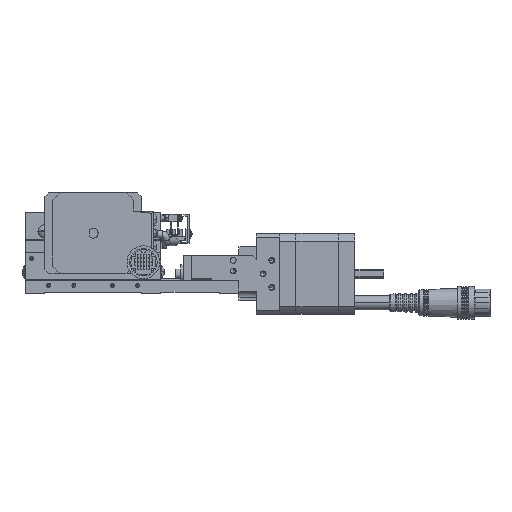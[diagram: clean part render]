
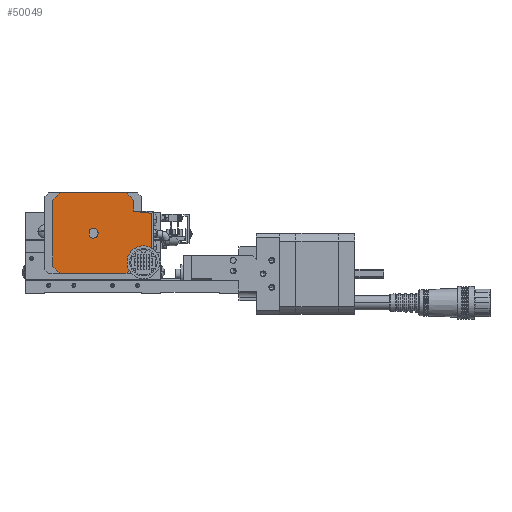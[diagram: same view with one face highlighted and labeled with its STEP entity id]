
A CAD part, front view. The second image highlights one B-rep face of the part: STEP entity #50049.
In plain terms, the highlighted planar face has unit normal (0, -1, 0) as drawn and (-1, 0, 0) by its records, which use the part's own axes.
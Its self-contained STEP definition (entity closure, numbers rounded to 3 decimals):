
#8 = ORIENTED_EDGE ( 'NONE', *, *, #3712, .F. ) ;
#1185 = LINE ( 'NONE', #28464, #116430 ) ;
#3200 = VERTEX_POINT ( 'NONE', #28772 ) ;
#3712 = EDGE_CURVE ( 'NONE', #16280, #63059, #44446, .T. ) ;
#5159 = CARTESIAN_POINT ( 'NONE',  ( -249.668, 161.584, -97.552 ) ) ;
#5873 = AXIS2_PLACEMENT_3D ( 'NONE', #65190, #27482, #121245 ) ;
#6093 = ORIENTED_EDGE ( 'NONE', *, *, #40337, .T. ) ;
#7298 = CARTESIAN_POINT ( 'NONE',  ( -249.668, 119.584, -103.023 ) ) ;
#7391 = CARTESIAN_POINT ( 'NONE',  ( -249.668, 110.584, -104.57 ) ) ;
#8073 = ORIENTED_EDGE ( 'NONE', *, *, #88447, .F. ) ;
#9577 = CARTESIAN_POINT ( 'NONE',  ( -249.668, 140.584, -114.523 ) ) ;
#9983 = AXIS2_PLACEMENT_3D ( 'NONE', #61301, #52452, #119418 ) ;
#11453 = LINE ( 'NONE', #95126, #93770 ) ;
#11583 = EDGE_CURVE ( 'NONE', #34268, #3200, #37236, .T. ) ;
#11746 = CARTESIAN_POINT ( 'NONE',  ( -249.668, 119.584, -103.023 ) ) ;
#12303 = CARTESIAN_POINT ( 'NONE',  ( -249.668, 161.584, -131.494 ) ) ;
#14438 = FACE_BOUND ( 'NONE', #114874, .T. ) ;
#14557 = DIRECTION ( 'NONE',  ( 0., 0., -1. ) ) ;
#15637 = EDGE_CURVE ( 'NONE', #38441, #23825, #42421, .T. ) ;
#15791 = EDGE_CURVE ( 'NONE', #23825, #88701, #73810, .T. ) ;
#16280 = VERTEX_POINT ( 'NONE', #52765 ) ;
#16564 = CARTESIAN_POINT ( 'NONE',  ( -249.668, 119.584, -126.023 ) ) ;
#16868 = EDGE_CURVE ( 'NONE', #59732, #51799, #19698, .T. ) ;
#18190 = CARTESIAN_POINT ( 'NONE',  ( -249.668, 140.584, -114.523 ) ) ;
#18547 = DIRECTION ( 'NONE',  ( 1., 0., 0. ) ) ;
#18619 = DIRECTION ( 'NONE',  ( 0., 0.993, -0.122 ) ) ;
#19698 = LINE ( 'NONE', #119589, #99023 ) ;
#22476 = ORIENTED_EDGE ( 'NONE', *, *, #76846, .F. ) ;
#23710 = AXIS2_PLACEMENT_3D ( 'NONE', #122237, #35635, #55759 ) ;
#23825 = VERTEX_POINT ( 'NONE', #5159 ) ;
#24105 = LINE ( 'NONE', #11746, #66026 ) ;
#25333 = ORIENTED_EDGE ( 'NONE', *, *, #99246, .F. ) ;
#26943 = DIRECTION ( 'NONE',  ( 0., 0.778, 0.629 ) ) ;
#27482 = DIRECTION ( 'NONE',  ( 1., 0., 0. ) ) ;
#28464 = CARTESIAN_POINT ( 'NONE',  ( -249.668, 119.584, -97.552 ) ) ;
#28772 = CARTESIAN_POINT ( 'NONE',  ( -249.668, 111.024, -124.972 ) ) ;
#30147 = EDGE_CURVE ( 'NONE', #95709, #49633, #35535, .T. ) ;
#31783 = VECTOR ( 'NONE', #92711, 1000. ) ;
#32145 = CIRCLE ( 'NONE', #61819, 27. ) ;
#34268 = VERTEX_POINT ( 'NONE', #65952 ) ;
#35535 = CIRCLE ( 'NONE', #9983, 0.5 ) ;
#35635 = DIRECTION ( 'NONE',  ( 1., 0., 0. ) ) ;
#36182 = CARTESIAN_POINT ( 'NONE',  ( -249.668, 111.024, -124.972 ) ) ;
#36460 = PLANE ( 'NONE',  #23710 ) ;
#36914 = CARTESIAN_POINT ( 'NONE',  ( -249.668, 140.584, -114.523 ) ) ;
#37236 = CIRCLE ( 'NONE', #5873, 0.5 ) ;
#38080 = DIRECTION ( 'NONE',  ( 0., 0.8, 0.6 ) ) ;
#38441 = VERTEX_POINT ( 'NONE', #102213 ) ;
#39889 = ORIENTED_EDGE ( 'NONE', *, *, #15637, .F. ) ;
#40337 = EDGE_CURVE ( 'NONE', #59732, #51799, #47695, .T. ) ;
#42421 = LINE ( 'NONE', #12303, #45425 ) ;
#42490 = AXIS2_PLACEMENT_3D ( 'NONE', #18190, #45787, #94715 ) ;
#44233 = VERTEX_POINT ( 'NONE', #88219 ) ;
#44446 = CIRCLE ( 'NONE', #42490, 27. ) ;
#45425 = VECTOR ( 'NONE', #59276, 1000. ) ;
#45787 = DIRECTION ( 'NONE',  ( 1., 0., 0. ) ) ;
#46921 = DIRECTION ( 'NONE',  ( 1., 0., 0. ) ) ;
#47695 = CIRCLE ( 'NONE', #53821, 2.5 ) ;
#47709 = CARTESIAN_POINT ( 'NONE',  ( -249.668, 140.584, -114.523 ) ) ;
#47857 = ORIENTED_EDGE ( 'NONE', *, *, #11583, .F. ) ;
#49633 = VERTEX_POINT ( 'NONE', #103091 ) ;
#50049 = ADVANCED_FACE ( 'NONE', ( #119269, #14438 ), #36460, .F. ) ;
#50156 = CARTESIAN_POINT ( 'NONE',  ( -249.668, 111.024, -104.074 ) ) ;
#51799 = VERTEX_POINT ( 'NONE', #95672 ) ;
#52452 = DIRECTION ( 'NONE',  ( 1., 0., 0. ) ) ;
#52765 = CARTESIAN_POINT ( 'NONE',  ( -249.668, 119.584, -131.494 ) ) ;
#53821 = AXIS2_PLACEMENT_3D ( 'NONE', #47709, #96239, #38080 ) ;
#54004 = LINE ( 'NONE', #36182, #67486 ) ;
#55754 = AXIS2_PLACEMENT_3D ( 'NONE', #36914, #46921, #113487 ) ;
#55759 = DIRECTION ( 'NONE',  ( 0., 0., -1. ) ) ;
#56847 = VERTEX_POINT ( 'NONE', #7298 ) ;
#57489 = CARTESIAN_POINT ( 'NONE',  ( -249.668, 119.584, -126.023 ) ) ;
#59276 = DIRECTION ( 'NONE',  ( 0., 0., 1. ) ) ;
#59732 = VERTEX_POINT ( 'NONE', #75301 ) ;
#61301 = CARTESIAN_POINT ( 'NONE',  ( -249.668, 111.084, -104.57 ) ) ;
#61819 = AXIS2_PLACEMENT_3D ( 'NONE', #9577, #105398, #96587 ) ;
#63059 = VERTEX_POINT ( 'NONE', #72530 ) ;
#64995 = ORIENTED_EDGE ( 'NONE', *, *, #68767, .F. ) ;
#65123 = VERTEX_POINT ( 'NONE', #81872 ) ;
#65190 = CARTESIAN_POINT ( 'NONE',  ( -249.668, 111.084, -124.476 ) ) ;
#65952 = CARTESIAN_POINT ( 'NONE',  ( -249.668, 110.584, -124.476 ) ) ;
#66026 = VECTOR ( 'NONE', #79474, 1000. ) ;
#66296 = LINE ( 'NONE', #7391, #31783 ) ;
#67486 = VECTOR ( 'NONE', #18619, 1000. ) ;
#68767 = EDGE_CURVE ( 'NONE', #92973, #56847, #1185, .T. ) ;
#70748 = VECTOR ( 'NONE', #81253, 1000. ) ;
#71197 = ORIENTED_EDGE ( 'NONE', *, *, #97398, .F. ) ;
#71252 = CARTESIAN_POINT ( 'NONE',  ( -249.668, 123.614, -135.523 ) ) ;
#72530 = CARTESIAN_POINT ( 'NONE',  ( -249.668, 123.614, -135.523 ) ) ;
#73810 = CIRCLE ( 'NONE', #80043, 27. ) ;
#75301 = CARTESIAN_POINT ( 'NONE',  ( -249.668, 142.584, -113.023 ) ) ;
#76846 = EDGE_CURVE ( 'NONE', #49633, #34268, #66296, .T. ) ;
#79474 = DIRECTION ( 'NONE',  ( 0., -0.993, -0.122 ) ) ;
#80043 = AXIS2_PLACEMENT_3D ( 'NONE', #123562, #18547, #26943 ) ;
#81044 = LINE ( 'NONE', #71252, #70748 ) ;
#81253 = DIRECTION ( 'NONE',  ( 0., 1., 0. ) ) ;
#81386 = EDGE_CURVE ( 'NONE', #44233, #38441, #102619, .T. ) ;
#81669 = ORIENTED_EDGE ( 'NONE', *, *, #30147, .F. ) ;
#81872 = CARTESIAN_POINT ( 'NONE',  ( -249.668, 123.614, -93.523 ) ) ;
#82031 = EDGE_LOOP ( 'NONE', ( #109289, #39889, #97612, #8073, #8, #25333, #84266, #47857, #22476, #81669, #71197, #64995, #86422, #121284 ) ) ;
#84266 = ORIENTED_EDGE ( 'NONE', *, *, #97741, .F. ) ;
#84308 = DIRECTION ( 'NONE',  ( 0., 0., -1. ) ) ;
#86422 = ORIENTED_EDGE ( 'NONE', *, *, #104105, .F. ) ;
#87713 = DIRECTION ( 'NONE',  ( 0., -1., 0. ) ) ;
#88219 = CARTESIAN_POINT ( 'NONE',  ( -249.668, 157.555, -135.523 ) ) ;
#88447 = EDGE_CURVE ( 'NONE', #63059, #44233, #81044, .T. ) ;
#88701 = VERTEX_POINT ( 'NONE', #94137 ) ;
#89563 = ORIENTED_EDGE ( 'NONE', *, *, #16868, .F. ) ;
#92711 = DIRECTION ( 'NONE',  ( 0., 0., -1. ) ) ;
#92973 = VERTEX_POINT ( 'NONE', #112750 ) ;
#93770 = VECTOR ( 'NONE', #87713, 1000. ) ;
#94137 = CARTESIAN_POINT ( 'NONE',  ( -249.668, 157.555, -93.523 ) ) ;
#94715 = DIRECTION ( 'NONE',  ( 0., -0.778, -0.629 ) ) ;
#95126 = CARTESIAN_POINT ( 'NONE',  ( -249.668, 157.555, -93.523 ) ) ;
#95672 = CARTESIAN_POINT ( 'NONE',  ( -249.668, 142.584, -116.023 ) ) ;
#95709 = VERTEX_POINT ( 'NONE', #50156 ) ;
#96239 = DIRECTION ( 'NONE',  ( 1., 0., 0. ) ) ;
#96587 = DIRECTION ( 'NONE',  ( 0., -0.629, 0.778 ) ) ;
#97398 = EDGE_CURVE ( 'NONE', #56847, #95709, #24105, .T. ) ;
#97612 = ORIENTED_EDGE ( 'NONE', *, *, #81386, .F. ) ;
#97741 = EDGE_CURVE ( 'NONE', #3200, #123157, #54004, .T. ) ;
#99023 = VECTOR ( 'NONE', #14557, 1000. ) ;
#99246 = EDGE_CURVE ( 'NONE', #123157, #16280, #100824, .T. ) ;
#100824 = LINE ( 'NONE', #16564, #118835 ) ;
#102213 = CARTESIAN_POINT ( 'NONE',  ( -249.668, 161.584, -131.494 ) ) ;
#102619 = CIRCLE ( 'NONE', #55754, 27. ) ;
#103091 = CARTESIAN_POINT ( 'NONE',  ( -249.668, 110.584, -104.57 ) ) ;
#104105 = EDGE_CURVE ( 'NONE', #65123, #92973, #32145, .T. ) ;
#105398 = DIRECTION ( 'NONE',  ( 1., 0., 0. ) ) ;
#105486 = EDGE_CURVE ( 'NONE', #88701, #65123, #11453, .T. ) ;
#109289 = ORIENTED_EDGE ( 'NONE', *, *, #15791, .F. ) ;
#112750 = CARTESIAN_POINT ( 'NONE',  ( -249.668, 119.584, -97.552 ) ) ;
#113487 = DIRECTION ( 'NONE',  ( 0., 0.629, -0.778 ) ) ;
#114677 = DIRECTION ( 'NONE',  ( 0., 0., -1. ) ) ;
#114874 = EDGE_LOOP ( 'NONE', ( #6093, #89563 ) ) ;
#116430 = VECTOR ( 'NONE', #114677, 1000. ) ;
#118835 = VECTOR ( 'NONE', #84308, 1000. ) ;
#119269 = FACE_OUTER_BOUND ( 'NONE', #82031, .T. ) ;
#119418 = DIRECTION ( 'NONE',  ( 0., -0.122, 0.993 ) ) ;
#119589 = CARTESIAN_POINT ( 'NONE',  ( -249.668, 142.584, -113.023 ) ) ;
#121245 = DIRECTION ( 'NONE',  ( 0., -1., 0. ) ) ;
#121284 = ORIENTED_EDGE ( 'NONE', *, *, #105486, .F. ) ;
#122237 = CARTESIAN_POINT ( 'NONE',  ( -249.668, 86.533, -64.972 ) ) ;
#123157 = VERTEX_POINT ( 'NONE', #57489 ) ;
#123562 = CARTESIAN_POINT ( 'NONE',  ( -249.668, 140.584, -114.523 ) ) ;
